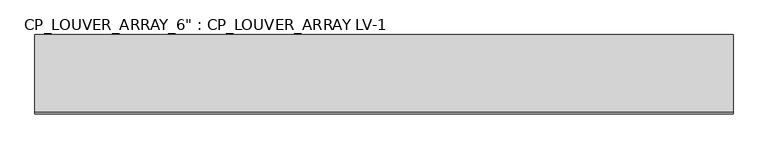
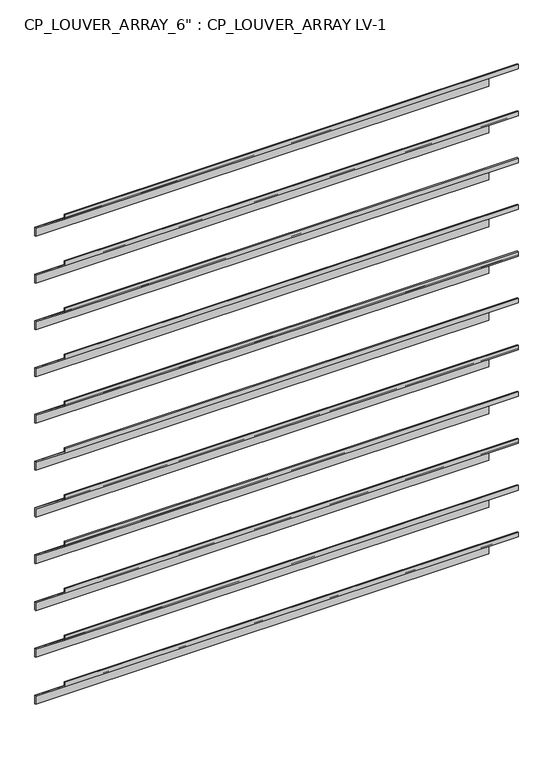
"""IFC4 building model written with IfcOpenShell, lengths in millimetres: plate geometry."""

from ifc_helpers import new_model, si_unit, frame, origin, place, context, project, spatial, polyline, outline, extrude, source, transform, mapped, element, save


def plate_6d26b4d6(model_context):
    return source(origin(), model_context, "Body", "SweptSolid", [
        extrude(outline(polyline([(10.1207966, 1536.7), (6.9457966, 1536.7), (6.9457966, 1562.6070081), (-148.6292034, 1687.0670081), (-148.6292034, 1701.8), (-145.4542034, 1701.8), (-145.4542034, 1688.5929919), (10.1207966, 1564.1329919), (10.1207966, 1536.7)])), frame((-698.5, 0.0, 0.0), z_axis=(1.0, 0.0, 0.0), x_axis=(0.0, 1.0, 0.0)), (0.0, 0.0, 1.0), 1397.0),
        extrude(outline(polyline([(10.1207966, 1384.3), (6.9457966, 1384.3), (6.9457966, 1410.2070081), (-148.6292034, 1534.6670081), (-148.6292034, 1549.4), (-145.4542034, 1549.4), (-145.4542034, 1536.1929919), (10.1207966, 1411.7329919), (10.1207966, 1384.3)])), frame((-698.5, 0.0, 0.0), z_axis=(1.0, 0.0, 0.0), x_axis=(0.0, 1.0, 0.0)), (0.0, 0.0, 1.0), 1397.0),
        extrude(outline(polyline([(10.1207966, 1231.9), (6.9457966, 1231.9), (6.9457966, 1257.8070081), (-148.6292034, 1382.2670081), (-148.6292034, 1397.0), (-145.4542034, 1397.0), (-145.4542034, 1383.7929919), (10.1207966, 1259.3329919), (10.1207966, 1231.9)])), frame((-698.5, 0.0, 0.0), z_axis=(1.0, 0.0, 0.0), x_axis=(0.0, 1.0, 0.0)), (0.0, 0.0, 1.0), 1397.0),
        extrude(outline(polyline([(10.1207966, 1079.5), (6.9457966, 1079.5), (6.9457966, 1105.4070081), (-148.6292034, 1229.8670081), (-148.6292034, 1244.6), (-145.4542034, 1244.6), (-145.4542034, 1231.3929919), (10.1207966, 1106.9329919), (10.1207966, 1079.5)])), frame((-698.5, 0.0, 0.0), z_axis=(1.0, 0.0, 0.0), x_axis=(0.0, 1.0, 0.0)), (0.0, 0.0, 1.0), 1397.0),
        extrude(outline(polyline([(10.1207966, 927.1), (6.9457966, 927.1), (6.9457966, 953.0070081), (-148.6292034, 1077.4670081), (-148.6292034, 1092.2), (-145.4542034, 1092.2), (-145.4542034, 1078.9929919), (10.1207966, 954.5329919), (10.1207966, 927.1)])), frame((-698.5, 0.0, 0.0), z_axis=(1.0, 0.0, 0.0), x_axis=(0.0, 1.0, 0.0)), (0.0, 0.0, 1.0), 1397.0),
        extrude(outline(polyline([(10.1207966, 774.7), (6.9457966, 774.7), (6.9457966, 800.6070081), (-148.6292034, 925.0670081), (-148.6292034, 939.8), (-145.4542034, 939.8), (-145.4542034, 926.5929919), (10.1207966, 802.1329919), (10.1207966, 774.7)])), frame((-698.5, 0.0, 0.0), z_axis=(1.0, 0.0, 0.0), x_axis=(0.0, 1.0, 0.0)), (0.0, 0.0, 1.0), 1397.0),
        extrude(outline(polyline([(10.1207966, 622.3), (6.9457966, 622.3), (6.9457966, 648.2070081), (-148.6292034, 772.6670081), (-148.6292034, 787.4), (-145.4542034, 787.4), (-145.4542034, 774.1929919), (10.1207966, 649.7329919), (10.1207966, 622.3)])), frame((-698.5, 0.0, 0.0), z_axis=(1.0, 0.0, 0.0), x_axis=(0.0, 1.0, 0.0)), (0.0, 0.0, 1.0), 1397.0),
        extrude(outline(polyline([(10.1207966, 469.9), (6.9457966, 469.9), (6.9457966, 495.8070081), (-148.6292034, 620.2670081), (-148.6292034, 635.0), (-145.4542034, 635.0), (-145.4542034, 621.7929919), (10.1207966, 497.3329919), (10.1207966, 469.9)])), frame((-698.5, 0.0, 0.0), z_axis=(1.0, 0.0, 0.0), x_axis=(0.0, 1.0, 0.0)), (0.0, 0.0, 1.0), 1397.0),
        extrude(outline(polyline([(10.1207966, 317.5), (6.9457966, 317.5), (6.9457966, 343.4070081), (-148.6292034, 467.8670081), (-148.6292034, 482.6), (-145.4542034, 482.6), (-145.4542034, 469.3929919), (10.1207966, 344.9329919), (10.1207966, 317.5)])), frame((-698.5, 0.0, 0.0), z_axis=(1.0, 0.0, 0.0), x_axis=(0.0, 1.0, 0.0)), (0.0, 0.0, 1.0), 1397.0),
        extrude(outline(polyline([(10.1207966, 165.1), (6.9457966, 165.1), (6.9457966, 191.0070081), (-148.6292034, 315.4670081), (-148.6292034, 330.2), (-145.4542034, 330.2), (-145.4542034, 316.9929919), (10.1207966, 192.5329919), (10.1207966, 165.1)])), frame((-698.5, 0.0, 0.0), z_axis=(1.0, 0.0, 0.0), x_axis=(0.0, 1.0, 0.0)), (0.0, 0.0, 1.0), 1397.0),
        extrude(outline(polyline([(10.1207966, 12.7), (6.9457966, 12.7), (6.9457966, 38.6070081), (-148.6292034, 163.0670081), (-148.6292034, 177.8), (-145.4542034, 177.8), (-145.4542034, 164.5929919), (10.1207966, 40.1329919), (10.1207966, 12.7)])), frame((-698.5, 0.0, 0.0), z_axis=(1.0, 0.0, 0.0), x_axis=(0.0, 1.0, 0.0)), (0.0, 0.0, 1.0), 1397.0),
    ])


if __name__ == "__main__":
    model = new_model("IFC4")
    model_context = context("Model", 3, world=origin())
    ifc_project = project(units=[si_unit("LENGTHUNIT", "METRE", prefix="MILLI")], contexts=[model_context])
    site = spatial("IfcSite", under=ifc_project)
    building = spatial("IfcBuilding", under=site)
    placement = place(None, origin())
    plate_shape = plate_6d26b4d6(model_context)
    element("IfcPlate", 1, ObjectType="CP_LOUVER_ARRAY_6\" : CP_LOUVER_ARRAY LV-1", at=placement, inside=building, context=model_context, shape_type="MappedRepresentation", body=[
        mapped(plate_shape, transform((0.0, 0.0, 0.0), x_axis=(1.0, 0.0, 0.0), y_axis=(0.0, 1.0, 0.0), z_axis=(0.0, 0.0, 1.0))),
    ])
    save(model, "model.ifc")
